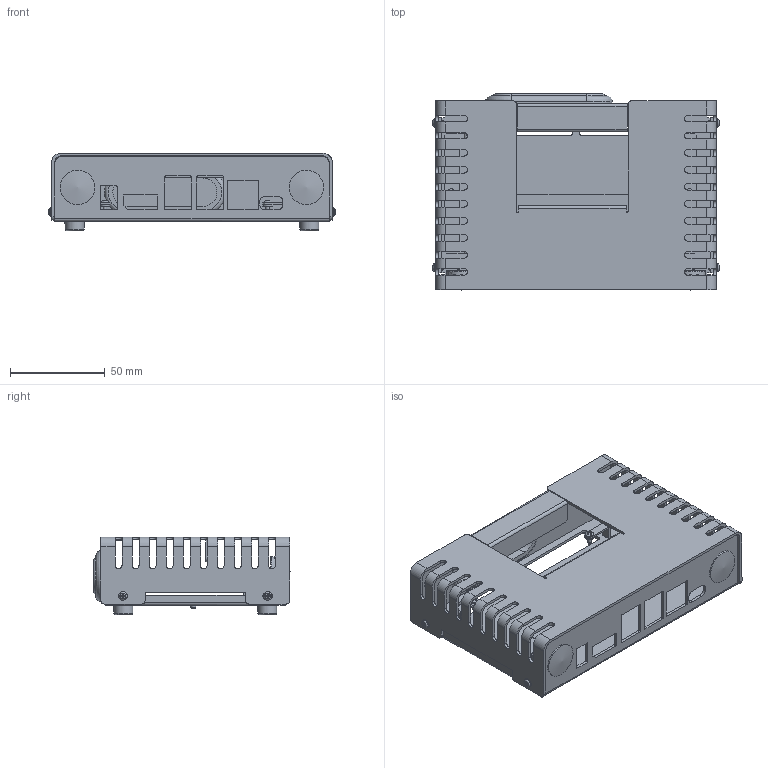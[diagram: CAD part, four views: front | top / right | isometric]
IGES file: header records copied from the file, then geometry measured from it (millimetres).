
Global section: file name: Open_IGES_ND290; native system: unknown; preprocessor: unknown; author: unknown; organization: unknown; date: 20230622.132204; units: millimetre
Bounding box: 151.57 x 103.7 x 41.15 mm (x, y, z)
Volume: 67049.2 mm3; surface area: 96348.3 mm2
Topology: 25 solids, 25 shells, 827 faces, 2427 edges, 1640 vertices
Faces by surface type: bspline 827
